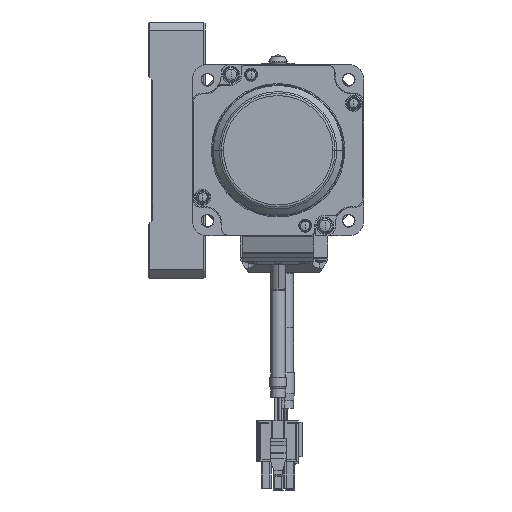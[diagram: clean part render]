
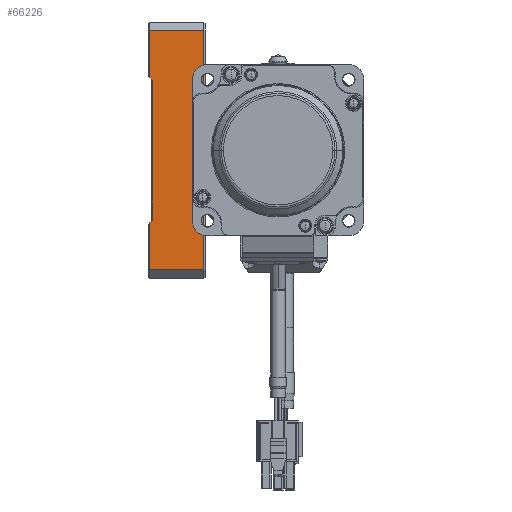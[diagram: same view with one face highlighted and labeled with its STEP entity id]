
A CAD part, front view. The second image highlights one B-rep face of the part: STEP entity #66226.
In plain terms, the highlighted planar face has unit normal (0, -1, 0) as drawn and (0, 0, 1) by its records, which use the part's own axes.
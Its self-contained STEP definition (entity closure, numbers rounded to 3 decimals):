
#64953=DIRECTION('',(0.707,0.707,0.));
#64954=VECTOR('',#64953,1.414);
#64955=CARTESIAN_POINT('',(-25.5,-9.5,12.5));
#64956=LINE('',#64955,#64954);
#65001=DIRECTION('',(1.,0.,0.));
#65002=VECTOR('',#65001,49.);
#65003=CARTESIAN_POINT('',(-24.5,-8.5,12.5));
#65004=LINE('',#65003,#65002);
#65005=DIRECTION('',(-1.,0.,0.));
#65006=VECTOR('',#65005,16.5);
#65007=CARTESIAN_POINT('',(-25.5,-9.5,12.5));
#65008=LINE('',#65007,#65006);
#65009=DIRECTION('',(0.,-1.,0.));
#65010=VECTOR('',#65009,19.);
#65011=CARTESIAN_POINT('',(-42.,9.5,12.5));
#65012=LINE('',#65011,#65010);
#65013=DIRECTION('',(1.,0.,0.));
#65014=VECTOR('',#65013,84.);
#65015=CARTESIAN_POINT('',(-42.,9.5,12.5));
#65016=LINE('',#65015,#65014);
#65017=DIRECTION('',(0.,-1.,0.));
#65018=VECTOR('',#65017,19.);
#65019=CARTESIAN_POINT('',(42.,9.5,12.5));
#65020=LINE('',#65019,#65018);
#65021=DIRECTION('',(-1.,0.,0.));
#65022=VECTOR('',#65021,16.5);
#65023=CARTESIAN_POINT('',(42.,-9.5,12.5));
#65024=LINE('',#65023,#65022);
#65229=DIRECTION('',(0.707,-0.707,0.));
#65230=VECTOR('',#65229,1.414);
#65231=CARTESIAN_POINT('',(24.5,-8.5,12.5));
#65232=LINE('',#65231,#65230);
#65849=CARTESIAN_POINT('',(-42.,9.5,12.5));
#65850=VERTEX_POINT('',#65849);
#65853=CARTESIAN_POINT('',(42.,9.5,12.5));
#65854=VERTEX_POINT('',#65853);
#65862=CARTESIAN_POINT('',(42.,-9.5,12.5));
#65864=VERTEX_POINT('',#65862);
#65887=CARTESIAN_POINT('',(-42.,-9.5,12.5));
#65888=VERTEX_POINT('',#65887);
#65890=CARTESIAN_POINT('',(-25.5,-9.5,12.5));
#65892=VERTEX_POINT('',#65890);
#65903=CARTESIAN_POINT('',(25.5,-9.5,12.5));
#65904=VERTEX_POINT('',#65903);
#65909=CARTESIAN_POINT('',(-24.5,-8.5,12.5));
#65910=CARTESIAN_POINT('',(24.5,-8.5,12.5));
#65911=VERTEX_POINT('',#65909);
#65912=VERTEX_POINT('',#65910);
#66205=CARTESIAN_POINT('',(-45.,-10.,12.5));
#66206=DIRECTION('',(0.,0.,1.));
#66207=DIRECTION('',(1.,0.,0.));
#66208=AXIS2_PLACEMENT_3D('',#66205,#66206,#66207);
#66209=PLANE('',#66208);
#66210=ORIENTED_EDGE('',*,*,#66198,.F.);
#66211=ORIENTED_EDGE('',*,*,#66157,.F.);
#66213=ORIENTED_EDGE('',*,*,#66212,.T.);
#66215=ORIENTED_EDGE('',*,*,#66214,.F.);
#66217=ORIENTED_EDGE('',*,*,#66216,.T.);
#66219=ORIENTED_EDGE('',*,*,#66218,.T.);
#66221=ORIENTED_EDGE('',*,*,#66220,.T.);
#66223=ORIENTED_EDGE('',*,*,#66222,.F.);
#66224=EDGE_LOOP('',(#66210,#66211,#66213,#66215,#66217,#66219,#66221,#66223));
#66225=FACE_OUTER_BOUND('',#66224,.F.);
#66226=ADVANCED_FACE('',(#66225),#66209,.T.);
#66157=EDGE_CURVE('',#65892,#65911,#64956,.T.);
#66198=EDGE_CURVE('',#65911,#65912,#65004,.T.);
#66212=EDGE_CURVE('',#65892,#65888,#65008,.T.);
#66214=EDGE_CURVE('',#65850,#65888,#65012,.T.);
#66216=EDGE_CURVE('',#65850,#65854,#65016,.T.);
#66218=EDGE_CURVE('',#65854,#65864,#65020,.T.);
#66220=EDGE_CURVE('',#65864,#65904,#65024,.T.);
#66222=EDGE_CURVE('',#65912,#65904,#65232,.T.);
